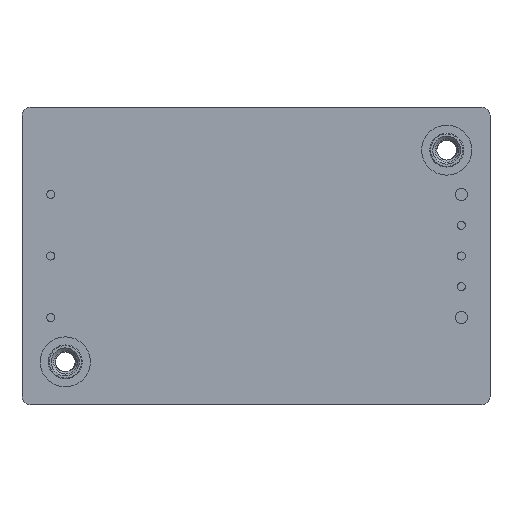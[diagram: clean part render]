
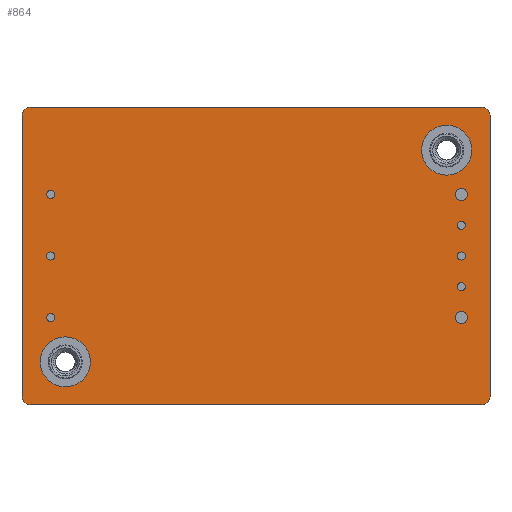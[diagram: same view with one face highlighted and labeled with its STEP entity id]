
A CAD part, front view. The second image highlights one B-rep face of the part: STEP entity #864.
In plain terms, the highlighted planar face has unit normal (0, -1, 0).
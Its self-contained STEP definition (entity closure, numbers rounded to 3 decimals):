
#64=LINE('',#1374,#96);
#68=LINE('',#1386,#100);
#72=LINE('',#1398,#104);
#76=LINE('',#1408,#108);
#96=VECTOR('',#1097,10.);
#100=VECTOR('',#1109,10.);
#104=VECTOR('',#1121,10.);
#108=VECTOR('',#1133,10.);
#132=PLANE('',#963);
#167=FACE_BOUND('',#289,.T.);
#168=FACE_BOUND('',#290,.T.);
#210=FACE_OUTER_BOUND('',#288,.T.);
#288=EDGE_LOOP('',(#669,#670,#671,#672,#673,#674,#675,#676));
#289=EDGE_LOOP('',(#677));
#290=EDGE_LOOP('',(#678));
#376=CIRCLE('',#940,3.1);
#378=CIRCLE('',#944,3.1);
#380=CIRCLE('',#948,1.);
#382=CIRCLE('',#952,1.);
#384=CIRCLE('',#956,1.);
#386=CIRCLE('',#960,1.);
#434=VERTEX_POINT('',#1352);
#436=VERTEX_POINT('',#1358);
#439=VERTEX_POINT('',#1365);
#440=VERTEX_POINT('',#1367);
#442=VERTEX_POINT('',#1373);
#444=VERTEX_POINT('',#1379);
#446=VERTEX_POINT('',#1385);
#448=VERTEX_POINT('',#1391);
#450=VERTEX_POINT('',#1397);
#452=VERTEX_POINT('',#1403);
#516=EDGE_CURVE('',#434,#434,#376,.T.);
#518=EDGE_CURVE('',#436,#436,#378,.T.);
#521=EDGE_CURVE('',#440,#439,#380,.T.);
#524=EDGE_CURVE('',#442,#440,#64,.T.);
#527=EDGE_CURVE('',#444,#442,#382,.T.);
#530=EDGE_CURVE('',#446,#444,#68,.T.);
#533=EDGE_CURVE('',#448,#446,#384,.T.);
#536=EDGE_CURVE('',#450,#448,#72,.T.);
#539=EDGE_CURVE('',#452,#450,#386,.T.);
#542=EDGE_CURVE('',#439,#452,#76,.T.);
#669=ORIENTED_EDGE('',*,*,#542,.T.);
#670=ORIENTED_EDGE('',*,*,#539,.T.);
#671=ORIENTED_EDGE('',*,*,#536,.T.);
#672=ORIENTED_EDGE('',*,*,#533,.T.);
#673=ORIENTED_EDGE('',*,*,#530,.T.);
#674=ORIENTED_EDGE('',*,*,#527,.T.);
#675=ORIENTED_EDGE('',*,*,#524,.T.);
#676=ORIENTED_EDGE('',*,*,#521,.T.);
#677=ORIENTED_EDGE('',*,*,#516,.T.);
#678=ORIENTED_EDGE('',*,*,#518,.T.);
#864=ADVANCED_FACE('',(#210,#167,#168),#132,.F.);
#940=AXIS2_PLACEMENT_3D('',#1353,#1074,#1075);
#944=AXIS2_PLACEMENT_3D('',#1359,#1082,#1083);
#948=AXIS2_PLACEMENT_3D('',#1368,#1091,#1092);
#952=AXIS2_PLACEMENT_3D('',#1380,#1103,#1104);
#956=AXIS2_PLACEMENT_3D('',#1392,#1115,#1116);
#960=AXIS2_PLACEMENT_3D('',#1404,#1127,#1128);
#963=AXIS2_PLACEMENT_3D('',#1410,#1136,#1137);
#1074=DIRECTION('center_axis',(0.,1.,0.));
#1075=DIRECTION('ref_axis',(-1.,0.,0.));
#1082=DIRECTION('center_axis',(0.,1.,0.));
#1083=DIRECTION('ref_axis',(-1.,0.,0.));
#1091=DIRECTION('center_axis',(0.,-1.,0.));
#1092=DIRECTION('ref_axis',(-1.,0.,0.));
#1097=DIRECTION('',(-1.,0.,0.));
#1103=DIRECTION('center_axis',(0.,-1.,0.));
#1104=DIRECTION('ref_axis',(0.,0.,1.));
#1109=DIRECTION('',(0.,0.,1.));
#1115=DIRECTION('center_axis',(0.,-1.,0.));
#1116=DIRECTION('ref_axis',(1.,0.,0.));
#1121=DIRECTION('',(1.,0.,0.));
#1127=DIRECTION('center_axis',(0.,-1.,0.));
#1128=DIRECTION('ref_axis',(0.,0.,-1.));
#1133=DIRECTION('',(0.,0.,-1.));
#1136=DIRECTION('center_axis',(0.,1.,0.));
#1137=DIRECTION('ref_axis',(0.,0.,1.));
#1352=CARTESIAN_POINT('',(-20.5,-11.1,-13.1));
#1353=CARTESIAN_POINT('Origin',(-23.6,-11.1,-13.1));
#1358=CARTESIAN_POINT('',(26.7,-11.1,13.1));
#1359=CARTESIAN_POINT('Origin',(23.6,-11.1,13.1));
#1365=CARTESIAN_POINT('',(-28.95,-11.1,17.4));
#1367=CARTESIAN_POINT('',(-27.95,-11.1,18.4));
#1368=CARTESIAN_POINT('Origin',(-27.95,-11.1,17.4));
#1373=CARTESIAN_POINT('',(27.95,-11.1,18.4));
#1374=CARTESIAN_POINT('',(-27.95,-11.1,18.4));
#1379=CARTESIAN_POINT('',(28.95,-11.1,17.4));
#1380=CARTESIAN_POINT('Origin',(27.95,-11.1,17.4));
#1385=CARTESIAN_POINT('',(28.95,-11.1,-17.4));
#1386=CARTESIAN_POINT('',(28.95,-11.1,17.4));
#1391=CARTESIAN_POINT('',(27.95,-11.1,-18.4));
#1392=CARTESIAN_POINT('Origin',(27.95,-11.1,-17.4));
#1397=CARTESIAN_POINT('',(-27.95,-11.1,-18.4));
#1398=CARTESIAN_POINT('',(27.95,-11.1,-18.4));
#1403=CARTESIAN_POINT('',(-28.95,-11.1,-17.4));
#1404=CARTESIAN_POINT('Origin',(-27.95,-11.1,-17.4));
#1408=CARTESIAN_POINT('',(-28.95,-11.1,-17.4));
#1410=CARTESIAN_POINT('Origin',(0.,-11.1,0.));
